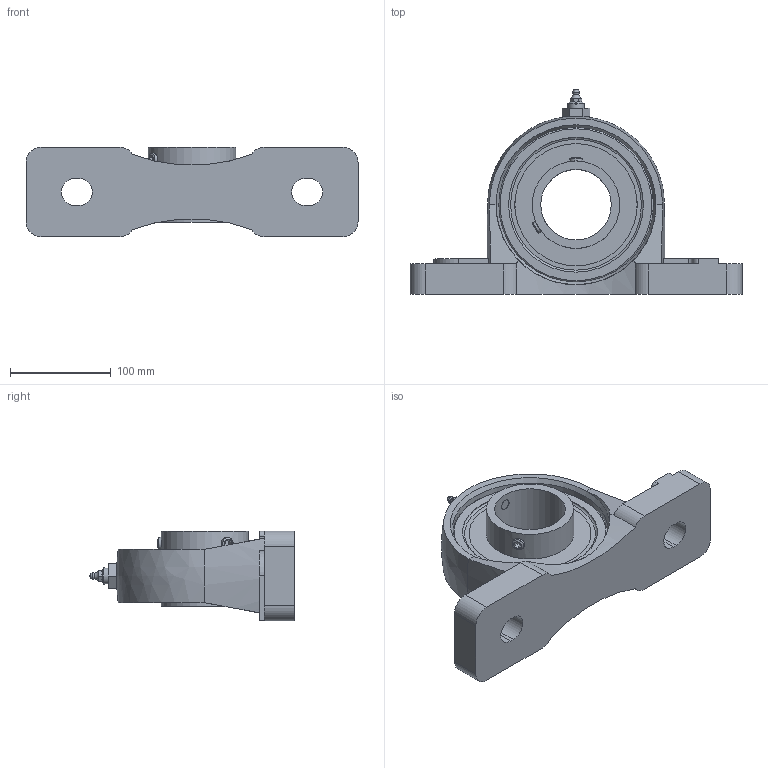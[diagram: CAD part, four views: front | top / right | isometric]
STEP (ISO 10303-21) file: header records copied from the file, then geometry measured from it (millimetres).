
FILE_DESCRIPTION((''),'2;1');
FILE_NAME('\\Ts-tgl068\J-Cad-D-BASE\00.3DCADデータ作成フォルダ\01.ピロー形\UCEP200\UCEP214.stp','2014-04-18T09:42:41',('btec_1106_2'),(''),'Autodesk Inventor 2012','Autodesk Inventor 2012','');
FILE_SCHEMA(('AUTOMOTIVE_DESIGN { 1 0 10303 214 1 1 1 1 }'));
Length unit declared in the file: millimetre
Products named in the file (7): UCEP200; EP215; AU110-3; EC214; シリーズUC [番手=214 ul]; M16X2; G1
Assembly tree (6 placements, depth 2):
  UCEP200
    EP215
    AU110-3
    EC214
    シリーズUC [番手=214 ul]
    M16X2
    G1
Bounding box: 330 x 203.29 x 89 mm (x, y, z)
Volume: 1514015.9 mm3; surface area: 227904.7 mm2
Topology: 6 solids, 6 shells, 169 faces, 417 edges, 268 vertices
Faces by surface type: plane 87, cylinder 48, cone 21, torus 8, sphere 4, bspline 1
Full cylindrical faces by diameter (mm): 4 x1, 8 x1, 8.566 x1, 9.728 x1, 12 x2, 13.835 x2, 16 x1, 70 x1, 87 x2, 134 x2, 154 x2
Entity records: 5249 total; most frequent: CARTESIAN_POINT 1182, DIRECTION 824, ORIENTED_EDGE 732, EDGE_CURVE 366, AXIS2_PLACEMENT_3D 323, VERTEX_POINT 254, EDGE_LOOP 230, VECTOR 178
